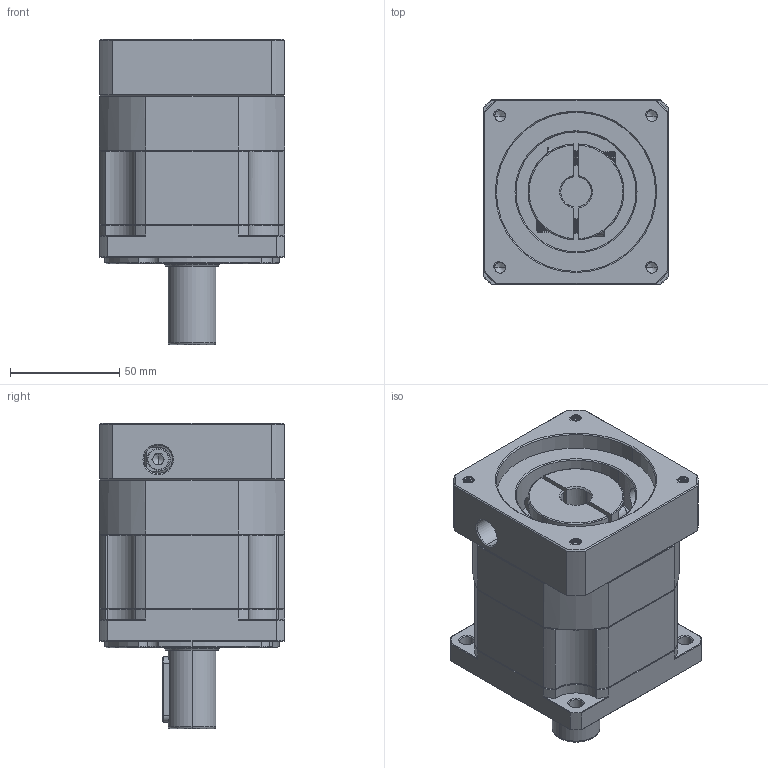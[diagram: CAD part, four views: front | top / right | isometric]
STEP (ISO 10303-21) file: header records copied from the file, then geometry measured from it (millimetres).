
FILE_DESCRIPTION (( 'STEP AP214' ), '1' );
FILE_NAME ('ZB90-D22-L1-14-73-69.5X69.5-M6.STEP', '2022-05-02T15:35:58', ( '' ), ( 'Microsoft' ), 'SwSTEP 2.0', 'SolidWorks 2016', '' );
FILE_SCHEMA (( 'AUTOMOTIVE_DESIGN' ));
Length unit declared in the file: millimetre
Products named in the file (1): ZB90-D22-L1-14-73-69.5X69.5-M6
Bounding box: 85 x 85 x 140 mm (x, y, z)
Volume: 608870.5 mm3; surface area: 86313 mm2
Topology: 4 solids, 5 shells, 1942 faces, 5071 edges, 3209 vertices
Faces by surface type: plane 886, cylinder 396, cone 334, bspline 299, torus 27
Entity records: 104767 total; most frequent: CARTESIAN_POINT 38436, ORIENTED_EDGE 10098, DIRECTION 8197, EDGE_CURVE 5049, VERTEX_POINT 3209, LINE 3101, VECTOR 3101, AXIS2_PLACEMENT_3D 2548
